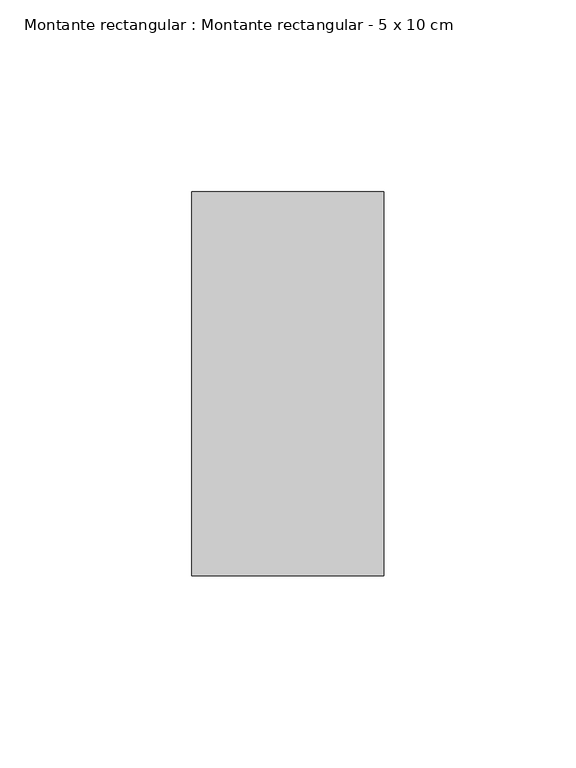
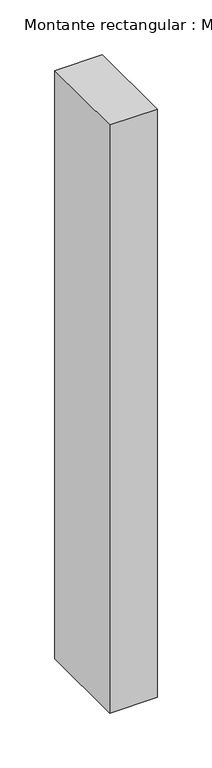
"""IFC4 building model written with IfcOpenShell, lengths in millimetres: member geometry, Montante rectangular : Montante rectangular - 5 x 10 cm."""

import ifcopenshell
import ifcopenshell.guid

model = None  # the IFC model being written
_history = None  # IfcOwnerHistory: only IFC2X3 demands one
_inside = {}  # id of a spatial element -> (the spatial element, [elements in it])
_under = {}  # id of a project, library or spatial element -> (it, [spatial elements below it])
_declared = {}  # id of a project -> (the project, [libraries it declares])
_typed = {}  # id of a type object -> (the type object, [elements of that type])
_made_of = {}  # id of a material, layer set ... -> (it, [elements and type objects made of it])


def new_model(schema):
    """Start an empty IFC model of exactly this schema.

    Asked for "IFC4X3", IfcOpenShell would pick the latest addendum, in which some entities
    have other attributes; the version numbers below select the first issue.
    IFC2X3 requires an IfcOwnerHistory on every rooted entity: one is made here for all.
    """
    global model, _history
    if schema == "IFC4X3":
        model = ifcopenshell.file(schema_version=(4, 3, 0, 0))
    else:
        model = ifcopenshell.file(schema=schema)
    _inside.clear()
    _under.clear()
    _declared.clear()
    _typed.clear()
    _made_of.clear()
    _history = None
    if model.schema == "IFC2X3":
        org = make("IfcOrganization", Name="unknown")
        user = make(
            "IfcPersonAndOrganization",
            ThePerson=make("IfcPerson", FamilyName="unknown"),
            TheOrganization=org,
        )
        app = make(
            "IfcApplication",
            ApplicationDeveloper=org,
            Version="unknown",
            ApplicationFullName="unknown",
            ApplicationIdentifier="unknown",
        )
        _history = make(
            "IfcOwnerHistory",
            OwningUser=user,
            OwningApplication=app,
            ChangeAction="ADDED",
            CreationDate=0,
        )
    return model


def make(cls, **values):
    """One entity of the class cls with the attributes given. An attribute that is None is left unset."""
    return model.create_entity(
        cls, **{name: value for name, value in values.items() if value is not None}
    )


def rooted(cls, **values):
    """An entity with a GlobalId (a new one), such as an element, a storey or a relation."""
    return make(cls, GlobalId=ifcopenshell.guid.new(), OwnerHistory=_history, **values)


def si_unit(unit_type, name, prefix=None):
    """IfcSIUnit, for example si_unit("LENGTHUNIT", "METRE", prefix="MILLI")."""
    return make("IfcSIUnit", UnitType=unit_type, Prefix=prefix, Name=name)


def assignment(units):
    """IfcUnitAssignment: the units of a project."""
    return None if units is None else make("IfcUnitAssignment", Units=units)


def point(xyz):
    """IfcCartesianPoint."""
    return None if xyz is None else make("IfcCartesianPoint", Coordinates=xyz)


def direction(xyz):
    """IfcDirection."""
    return None if xyz is None else make("IfcDirection", DirectionRatios=xyz)


def frame(location, z_axis=None, x_axis=None):
    """IfcAxis2Placement3D, a coordinate frame: its origin and axes. An axis left out is left unset."""
    return make(
        "IfcAxis2Placement3D",
        Location=point(location),
        Axis=direction(z_axis),
        RefDirection=direction(x_axis),
    )


def origin():
    """The frame at (0, 0, 0) with its axes left unset."""
    return frame((0.0, 0.0, 0.0))


def place(relative_to, where):
    """IfcLocalPlacement: puts the frame where relative to a parent placement (None: the world)."""
    return make(
        "IfcLocalPlacement", PlacementRelTo=relative_to, RelativePlacement=where
    )


def context(
    kind, dimensions, precision=None, world=None, true_north=None, identifier=None
):
    """IfcGeometricRepresentationContext, for example the 3D "Model" context."""
    return make(
        "IfcGeometricRepresentationContext",
        ContextIdentifier=identifier,
        ContextType=kind,
        CoordinateSpaceDimension=dimensions,
        Precision=precision,
        WorldCoordinateSystem=world,
        TrueNorth=true_north,
    )


def project(units=None, contexts=None):
    """IfcProject with its units and contexts."""
    return rooted(
        "IfcProject",
        Name="project",
        RepresentationContexts=contexts,
        UnitsInContext=assignment(units),
    )


def spatial(cls, under=None, at=None, **own):
    """A site, building, storey or space (cls), placed at a placement, below another one or the project."""
    s = rooted(cls, ObjectPlacement=at, **own)
    if under is not None:
        _under.setdefault(under.id(), (under, []))[1].append(s)
    return s


def polyline(points):
    """IfcPolyline through the points."""
    return make("IfcPolyline", Points=[point(p) for p in points])


def outline(outer, holes=None, kind="AREA"):
    """IfcArbitraryClosedProfileDef: a profile drawn as a closed curve; with holes, ...WithVoids."""
    if holes is None:
        return make("IfcArbitraryClosedProfileDef", ProfileType=kind, OuterCurve=outer)
    return make(
        "IfcArbitraryProfileDefWithVoids",
        ProfileType=kind,
        OuterCurve=outer,
        InnerCurves=holes,
    )


def extrude(swept, where, along, depth):
    """IfcExtrudedAreaSolid: the profile swept, set in the frame where, extruded along a direction by depth."""
    return make(
        "IfcExtrudedAreaSolid",
        SweptArea=swept,
        Position=where,
        ExtrudedDirection=direction(along),
        Depth=depth,
    )


def shape(context_of_items, identifier, shape_type, items):
    """IfcShapeRepresentation: the items that make up one representation, for example the "Body"."""
    return make(
        "IfcShapeRepresentation",
        ContextOfItems=context_of_items,
        RepresentationIdentifier=identifier,
        RepresentationType=shape_type,
        Items=items,
    )


def source(mapping_origin, context_of_items, identifier, shape_type, items):
    """IfcRepresentationMap: a shape defined once, which mapped items show again and again."""
    return make(
        "IfcRepresentationMap",
        MappingOrigin=mapping_origin,
        MappedRepresentation=shape(context_of_items, identifier, shape_type, items),
    )


def transform(
    local_origin,
    x_axis=None,
    y_axis=None,
    z_axis=None,
    scale=None,
    scale2=None,
    scale3=None,
    uniform=True,
):
    """IfcCartesianTransformationOperator3D, or its non-uniform kind. x_axis, y_axis, z_axis: its Axis1, 2, 3."""
    if uniform:
        return make(
            "IfcCartesianTransformationOperator3D",
            Axis1=direction(x_axis),
            Axis2=direction(y_axis),
            LocalOrigin=point(local_origin),
            Scale=scale,
            Axis3=direction(z_axis),
        )
    return make(
        "IfcCartesianTransformationOperator3DnonUniform",
        Axis1=direction(x_axis),
        Axis2=direction(y_axis),
        LocalOrigin=point(local_origin),
        Scale=scale,
        Axis3=direction(z_axis),
        Scale2=scale2,
        Scale3=scale3,
    )


def mapped(mapping_source, mapping_target):
    """IfcMappedItem: shows the shape of a source again, moved by a transform."""
    return make(
        "IfcMappedItem", MappingSource=mapping_source, MappingTarget=mapping_target
    )


def made_of(thing, what):
    """Note that an element or type object is made of a material, layer set ...; save() writes the relation."""
    if what is not None:
        _made_of.setdefault(what.id(), (what, []))[1].append(thing)
    return thing


def element(
    cls,
    number,
    at=None,
    inside=None,
    cuts=None,
    type_object=None,
    material=None,
    context=None,
    identifier="Body",
    shape_type=None,
    held_by="IfcProductDefinitionShape",
    body=None,
    shapes=None,
    **own,
):
    """One element of the class cls, such as IfcWall. Its Tag is "e" and its number.

    at: its placement. inside: the storey or other place that contains it. cuts: it is an
    opening in that element (IfcRelVoidsElement). A single representation is given by context,
    identifier, shape_type and body (its items); several are given by shapes. held_by: the class
    of the entity that holds the representations. save() writes the other relations.
    """
    e = rooted(cls, Tag="e%d" % number, ObjectPlacement=at, **own)
    if body is not None:
        shapes = [shape(context, identifier, shape_type, body)]
    if shapes is not None:
        e.Representation = make(held_by, Representations=shapes)
    if inside is not None:
        _inside.setdefault(inside.id(), (inside, []))[1].append(e)
    if cuts is not None:
        rooted(
            "IfcRelVoidsElement", RelatingBuildingElement=cuts, RelatedOpeningElement=e
        )
    if type_object is not None:
        _typed.setdefault(type_object.id(), (type_object, []))[1].append(e)
    return made_of(e, material)


def aggregate(whole, parts):
    """IfcRelAggregates: a whole, such as a stair, and the parts it consists of."""
    return rooted("IfcRelAggregates", RelatingObject=whole, RelatedObjects=parts)


def save(model, path):
    """Write the relations noted so far, then the file.

    IfcRelAggregates (storeys below a building ...), IfcRelContainedInSpatialStructure (elements
    in a storey), IfcRelDefinesByType, IfcRelAssociatesMaterial and IfcRelDeclares: one each for
    every whole, place, type object, material and project.
    """
    for whole, parts in _under.values():
        aggregate(whole, parts)
    for where, things in _inside.values():
        rooted(
            "IfcRelContainedInSpatialStructure",
            RelatedElements=things,
            RelatingStructure=where,
        )
    for kind, things in _typed.values():
        rooted("IfcRelDefinesByType", RelatedObjects=things, RelatingType=kind)
    for what, things in _made_of.values():
        rooted("IfcRelAssociatesMaterial", RelatedObjects=things, RelatingMaterial=what)
    for by, libraries in _declared.values():
        rooted("IfcRelDeclares", RelatingContext=by, RelatedDefinitions=libraries)
    model.write(path)


def montante_rectangular_montante_rectangular_5_x_10_cm_ec10f1b6(model_context):
    return source(origin(), model_context, "Body", "SweptSolid", [
        extrude(outline(polyline([(0.0, 50.0), (0.0, -50.0), (-50.0, -50.0), (-50.0, 50.0), (0.0, 50.0)])), frame((0.0, 0.0, -655.0), z_axis=(0.0, 0.0, 1.0), x_axis=(1.0, 0.0, 0.0)), (0.0, 0.0, 1.0), 655.0),
    ])


if __name__ == "__main__":
    model = new_model("IFC4")
    model_context = context("Model", 3, world=origin())
    ifc_project = project(units=[si_unit("LENGTHUNIT", "METRE", prefix="MILLI")], contexts=[model_context])
    site = spatial("IfcSite", under=ifc_project)
    building = spatial("IfcBuilding", under=site)
    placement = place(None, origin())
    montante_rectangular_montante_rectangular_5_x_10_cm_shape = montante_rectangular_montante_rectangular_5_x_10_cm_ec10f1b6(model_context)
    element("IfcMember", 1, ObjectType="Montante rectangular : Montante rectangular - 5 x 10 cm", at=placement, inside=building, context=model_context, shape_type="MappedRepresentation", body=[
        mapped(montante_rectangular_montante_rectangular_5_x_10_cm_shape, transform((0.0, 0.0, 0.0), x_axis=(1.0, 0.0, 0.0), y_axis=(0.0, 1.0, 0.0), z_axis=(0.0, 0.0, 1.0))),
    ])
    save(model, "model.ifc")
